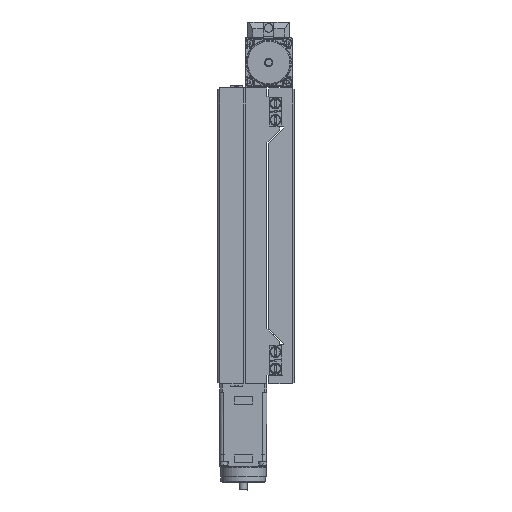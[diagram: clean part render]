
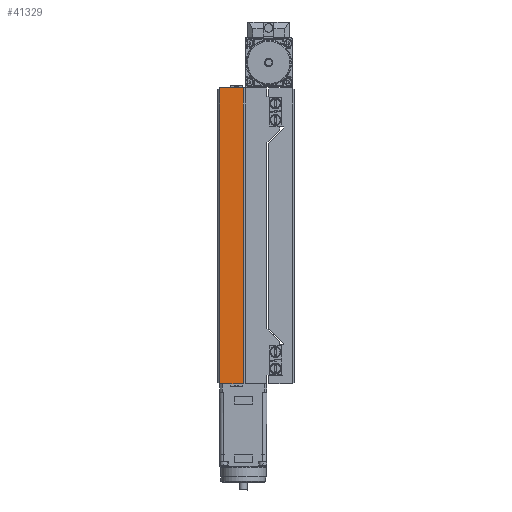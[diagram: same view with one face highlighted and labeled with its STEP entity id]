
A CAD part, left-side view. The second image highlights one B-rep face of the part: STEP entity #41329.
In plain terms, the highlighted planar face has unit normal (-1, 0, 0).
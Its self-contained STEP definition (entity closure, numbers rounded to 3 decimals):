
#1142 = DIRECTION ( 'NONE',  ( 0., 1., 0. ) ) ;
#1143 = VECTOR ( 'NONE', #1142, 1000. ) ;
#1144 = CARTESIAN_POINT ( 'NONE',  ( -45.695, 36.224, 175. ) ) ;
#1145 = LINE ( 'NONE', #1144, #1143 ) ;
#1146 = CARTESIAN_POINT ( 'NONE',  ( -45.695, 35.224, 175. ) ) ;
#1683 = DIRECTION ( 'NONE',  ( 0., 0., 1. ) ) ;
#1684 = VECTOR ( 'NONE', #1683, 1000. ) ;
#1685 = CARTESIAN_POINT ( 'NONE',  ( -45.695, 35.224, 175. ) ) ;
#1690 = LINE ( 'NONE', #1685, #1684 ) ;
#1693 = DIRECTION ( 'NONE',  ( 0., -1., 0. ) ) ;
#1694 = DIRECTION ( 'NONE',  ( -1., 0., 0. ) ) ;
#1695 = CARTESIAN_POINT ( 'NONE',  ( -45.695, 36.224, 175. ) ) ;
#1696 = AXIS2_PLACEMENT_3D ( 'NONE', #1695, #1694, #1693 ) ;
#1697 = PLANE ( 'NONE',  #1696 ) ;
#1698 = FACE_OUTER_BOUND ( 'NONE', #41330, .T. ) ;
#1728 = CARTESIAN_POINT ( 'NONE',  ( -45.695, 35.224, 0. ) ) ;
#1729 = DIRECTION ( 'NONE',  ( 0., -1., 0. ) ) ;
#1730 = VECTOR ( 'NONE', #1729, 1000. ) ;
#1731 = CARTESIAN_POINT ( 'NONE',  ( -45.695, 36.224, 0. ) ) ;
#1736 = LINE ( 'NONE', #1731, #1730 ) ;
#20566 = VERTEX_POINT ( 'NONE', #61797 ) ;
#20568 = EDGE_CURVE ( 'NONE', #20569, #20566, #61863, .T. ) ;
#20569 = VERTEX_POINT ( 'NONE', #61859 ) ;
#40689 = VERTEX_POINT ( 'NONE', #1146 ) ;
#40692 = EDGE_CURVE ( 'NONE', #20566, #40689, #1145, .T. ) ;
#41329 = ADVANCED_FACE ( 'NONE', ( #1698 ), #1697, .T. ) ;
#41330 = EDGE_LOOP ( 'NONE', ( #41333, #41335, #41337, #41371 ) ) ;
#41333 = ORIENTED_EDGE ( 'NONE', *, *, #20568, .T. ) ;
#41335 = ORIENTED_EDGE ( 'NONE', *, *, #40692, .T. ) ;
#41337 = ORIENTED_EDGE ( 'NONE', *, *, #41338, .F. ) ;
#41338 = EDGE_CURVE ( 'NONE', #41356, #40689, #1690, .T. ) ;
#41355 = EDGE_CURVE ( 'NONE', #41356, #20569, #1736, .T. ) ;
#41356 = VERTEX_POINT ( 'NONE', #1728 ) ;
#41371 = ORIENTED_EDGE ( 'NONE', *, *, #41355, .T. ) ;
#61797 = CARTESIAN_POINT ( 'NONE',  ( -45.695, 21.224, 175. ) ) ;
#61859 = CARTESIAN_POINT ( 'NONE',  ( -45.695, 21.224, 0. ) ) ;
#61860 = DIRECTION ( 'NONE',  ( 0., 0., 1. ) ) ;
#61861 = VECTOR ( 'NONE', #61860, 1000. ) ;
#61862 = CARTESIAN_POINT ( 'NONE',  ( -45.695, 21.224, 175. ) ) ;
#61863 = LINE ( 'NONE', #61862, #61861 ) ;
